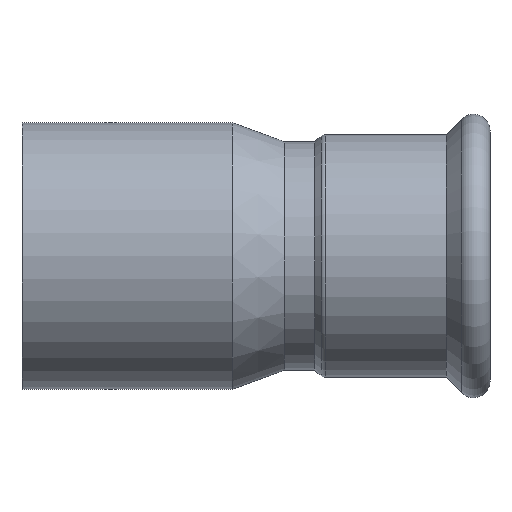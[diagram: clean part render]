
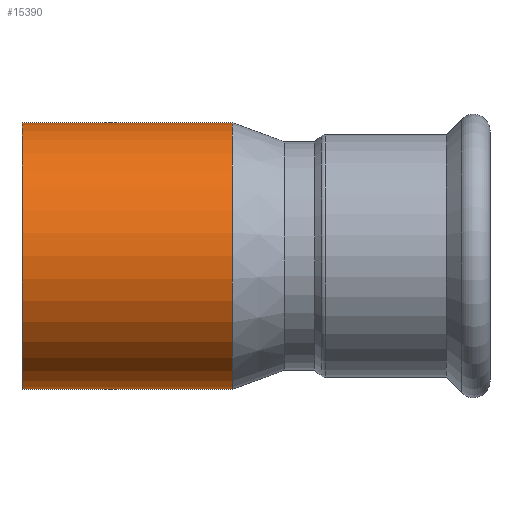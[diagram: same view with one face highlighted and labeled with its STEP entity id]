
A CAD part, top view. The second image highlights one B-rep face of the part: STEP entity #15390.
In plain terms, the highlighted cylindrical face has radius 44.45 mm (diameter 88.9 mm), a partial arc.
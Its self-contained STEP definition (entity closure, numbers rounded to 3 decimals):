
#14280=CARTESIAN_POINT('',(-23.,-44.45,0.));
#14290=VERTEX_POINT('',#14280);
#14370=CARTESIAN_POINT('',(-23.,44.45,0.));
#14380=VERTEX_POINT('',#14370);
#14410=CARTESIAN_POINT('',(-23.,0.,0.));
#14420=DIRECTION('',(-1.,0.,0.));
#14430=DIRECTION('',(0.,-1.,0.));
#14440=AXIS2_PLACEMENT_3D('',#14410,#14420,#14430);
#14450=CIRCLE('',#14440,44.45);
#14940=CARTESIAN_POINT('',(-93.,0.,0.));
#14950=DIRECTION('',(-1.,0.,0.));
#14960=DIRECTION('',(0.,-1.,0.));
#14970=AXIS2_PLACEMENT_3D('',#14940,#14950,#14960);
#14980=CIRCLE('',#14970,44.45);
#14990=CARTESIAN_POINT('',(-93.,-44.45,0.));
#15000=VERTEX_POINT('',#14990);
#15010=CARTESIAN_POINT('',(-93.,44.45,0.));
#15020=VERTEX_POINT('',#15010);
#15030=EDGE_CURVE('',#15000,#15020,#14980,.T.);
#15100=CARTESIAN_POINT('',(-93.,0.,0.));
#15110=DIRECTION('',(-1.,0.,0.));
#15120=DIRECTION('',(0.,-1.,0.));
#15130=AXIS2_PLACEMENT_3D('',#15100,#15110,#15120);
#15140=CYLINDRICAL_SURFACE('',#15130,44.45);
#15150=CARTESIAN_POINT('',(-93.,44.45,0.));
#15160=DIRECTION('',(-1.,0.,0.));
#15170=VECTOR('',#15160,1.);
#15180=LINE('',#15150,#15170);
#15190=EDGE_CURVE('',#14380,#15020,#15180,.T.);
#15220=CARTESIAN_POINT('',(-93.,-44.45,0.));
#15230=DIRECTION('',(-1.,0.,0.));
#15240=VECTOR('',#15230,1.);
#15250=LINE('',#15220,#15240);
#15260=EDGE_CURVE('',#14290,#15000,#15250,.T.);
#15320=ORIENTED_EDGE('',*,*,#15030,.F.);
#15330=ORIENTED_EDGE('',*,*,#15190,.T.);
#15340=EDGE_CURVE('',#14290,#14380,#14450,.T.);
#15350=ORIENTED_EDGE('',*,*,#15340,.T.);
#15360=ORIENTED_EDGE('',*,*,#15260,.F.);
#15370=EDGE_LOOP('',(#15360,#15350,#15330,#15320));
#15380=FACE_OUTER_BOUND('',#15370,.T.);
#15390=ADVANCED_FACE('',(#15380),#15140,.T.);
